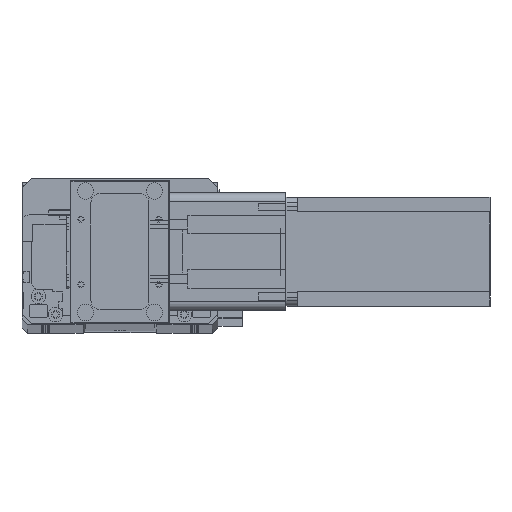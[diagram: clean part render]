
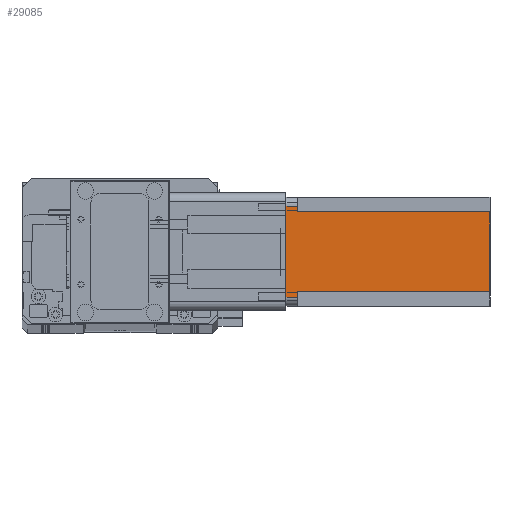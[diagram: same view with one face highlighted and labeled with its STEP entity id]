
A CAD part, top view. The second image highlights one B-rep face of the part: STEP entity #29085.
In plain terms, the highlighted planar face has unit normal (0, 0, 1) as drawn and (0, 1, 0) by its records, which use the part's own axes.
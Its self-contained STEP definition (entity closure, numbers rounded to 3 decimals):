
#107 = ORIENTED_EDGE ( 'NONE', *, *, #25274, .T. ) ;
#1896 = DIRECTION ( 'NONE',  ( 0., 1., 0. ) ) ;
#2053 = ORIENTED_EDGE ( 'NONE', *, *, #27729, .F. ) ;
#2601 = ORIENTED_EDGE ( 'NONE', *, *, #17478, .T. ) ;
#2654 = CARTESIAN_POINT ( 'NONE',  ( 5., 60., 0. ) ) ;
#3706 = ORIENTED_EDGE ( 'NONE', *, *, #17858, .F. ) ;
#3962 = CARTESIAN_POINT ( 'NONE',  ( 52., 60., -6.5 ) ) ;
#4189 = AXIS2_PLACEMENT_3D ( 'NONE', #6701, #1896, #18987 ) ;
#5512 = CARTESIAN_POINT ( 'NONE',  ( 0., 60., 0. ) ) ;
#5745 = VECTOR ( 'NONE', #15300, 1000. ) ;
#6458 = LINE ( 'NONE', #14657, #19460 ) ;
#6701 = CARTESIAN_POINT ( 'NONE',  ( 0., 60., -112.5 ) ) ;
#6766 = VECTOR ( 'NONE', #25312, 1000. ) ;
#6843 = CARTESIAN_POINT ( 'NONE',  ( 0., 60., -112.5 ) ) ;
#7698 = VECTOR ( 'NONE', #12896, 1000. ) ;
#9388 = VERTEX_POINT ( 'NONE', #14545 ) ;
#9535 = LINE ( 'NONE', #13515, #21752 ) ;
#10338 = LINE ( 'NONE', #14078, #16068 ) ;
#10715 = CARTESIAN_POINT ( 'NONE',  ( 55., 60., -112.5 ) ) ;
#11640 = VERTEX_POINT ( 'NONE', #12636 ) ;
#12239 = LINE ( 'NONE', #25004, #5745 ) ;
#12269 = FACE_OUTER_BOUND ( 'NONE', #31118, .T. ) ;
#12633 = VERTEX_POINT ( 'NONE', #24178 ) ;
#12636 = CARTESIAN_POINT ( 'NONE',  ( 8., 60., -112.5 ) ) ;
#12896 = DIRECTION ( 'NONE',  ( -1., 0., 0. ) ) ;
#13282 = LINE ( 'NONE', #10715, #6766 ) ;
#13515 = CARTESIAN_POINT ( 'NONE',  ( 8., 60., -6.5 ) ) ;
#13622 = VERTEX_POINT ( 'NONE', #3962 ) ;
#13968 = CARTESIAN_POINT ( 'NONE',  ( 55., 60., -6.5 ) ) ;
#14078 = CARTESIAN_POINT ( 'NONE',  ( 52., 60., -112.5 ) ) ;
#14157 = DIRECTION ( 'NONE',  ( 0., 0., 1. ) ) ;
#14194 = LINE ( 'NONE', #5512, #7698 ) ;
#14494 = VECTOR ( 'NONE', #21472, 1000. ) ;
#14545 = CARTESIAN_POINT ( 'NONE',  ( 55., 60., 0. ) ) ;
#14657 = CARTESIAN_POINT ( 'NONE',  ( 52., 60., -6.5 ) ) ;
#15300 = DIRECTION ( 'NONE',  ( 0., 0., -1. ) ) ;
#16044 = LINE ( 'NONE', #6843, #14494 ) ;
#16068 = VECTOR ( 'NONE', #18986, 1000. ) ;
#16525 = PLANE ( 'NONE',  #4189 ) ;
#16965 = EDGE_CURVE ( 'NONE', #22925, #13622, #10338, .T. ) ;
#17478 = EDGE_CURVE ( 'NONE', #28019, #12633, #9535, .T. ) ;
#17858 = EDGE_CURVE ( 'NONE', #28019, #11640, #12239, .T. ) ;
#18231 = EDGE_CURVE ( 'NONE', #22925, #11640, #16044, .T. ) ;
#18986 = DIRECTION ( 'NONE',  ( 0., 0., 1. ) ) ;
#18987 = DIRECTION ( 'NONE',  ( 0., 0., 1. ) ) ;
#19460 = VECTOR ( 'NONE', #29264, 1000. ) ;
#19718 = LINE ( 'NONE', #31193, #21246 ) ;
#20197 = VERTEX_POINT ( 'NONE', #13968 ) ;
#20384 = ORIENTED_EDGE ( 'NONE', *, *, #16965, .F. ) ;
#20708 = DIRECTION ( 'NONE',  ( -1., 0., 0. ) ) ;
#21246 = VECTOR ( 'NONE', #14157, 1000. ) ;
#21362 = ORIENTED_EDGE ( 'NONE', *, *, #24239, .T. ) ;
#21414 = CARTESIAN_POINT ( 'NONE',  ( 8., 60., -6.5 ) ) ;
#21472 = DIRECTION ( 'NONE',  ( -1., 0., 0. ) ) ;
#21752 = VECTOR ( 'NONE', #20708, 1000. ) ;
#22214 = CARTESIAN_POINT ( 'NONE',  ( 52., 60., -112.5 ) ) ;
#22254 = EDGE_CURVE ( 'NONE', #13622, #20197, #6458, .T. ) ;
#22925 = VERTEX_POINT ( 'NONE', #22214 ) ;
#23126 = ORIENTED_EDGE ( 'NONE', *, *, #22254, .F. ) ;
#24178 = CARTESIAN_POINT ( 'NONE',  ( 5., 60., -6.5 ) ) ;
#24239 = EDGE_CURVE ( 'NONE', #9388, #20197, #13282, .T. ) ;
#25004 = CARTESIAN_POINT ( 'NONE',  ( 8., 60., -112.5 ) ) ;
#25274 = EDGE_CURVE ( 'NONE', #12633, #26720, #19718, .T. ) ;
#25312 = DIRECTION ( 'NONE',  ( 0., 0., -1. ) ) ;
#26720 = VERTEX_POINT ( 'NONE', #2654 ) ;
#27729 = EDGE_CURVE ( 'NONE', #9388, #26720, #14194, .T. ) ;
#28019 = VERTEX_POINT ( 'NONE', #21414 ) ;
#29085 = ADVANCED_FACE ( 'NONE', ( #12269 ), #16525, .T. ) ;
#29264 = DIRECTION ( 'NONE',  ( 1., 0., 0. ) ) ;
#29680 = ORIENTED_EDGE ( 'NONE', *, *, #18231, .T. ) ;
#31118 = EDGE_LOOP ( 'NONE', ( #2053, #21362, #23126, #20384, #29680, #3706, #2601, #107 ) ) ;
#31193 = CARTESIAN_POINT ( 'NONE',  ( 5., 60., -112.5 ) ) ;
